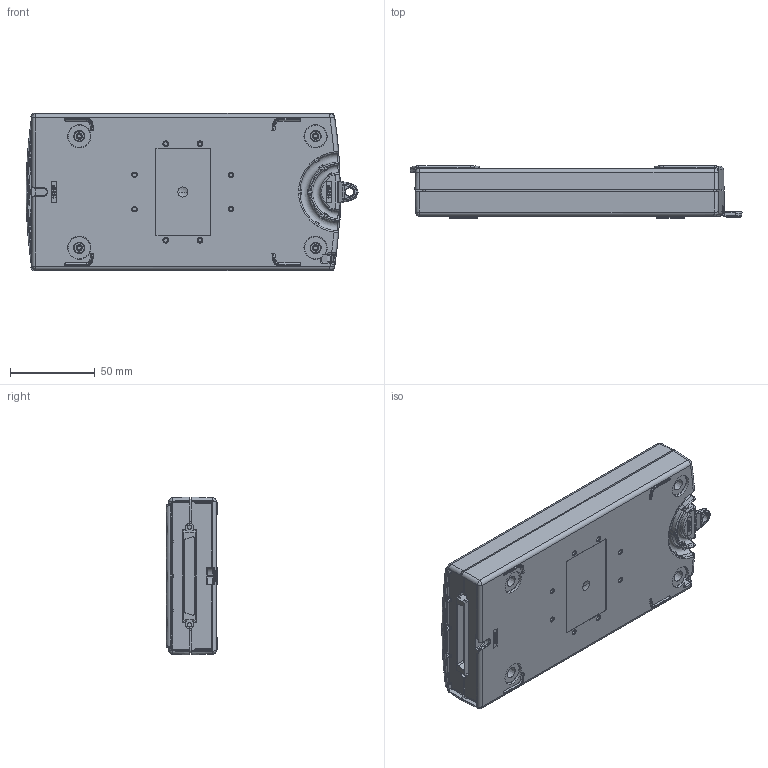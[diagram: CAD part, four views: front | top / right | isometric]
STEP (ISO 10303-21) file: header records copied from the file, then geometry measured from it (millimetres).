
FILE_DESCRIPTION((''),'2;1');
FILE_NAME('CU_USB-6212_6216_MASS_TERM_ASM','2015-09-01T',('dkendric'),(''),'PRO/ENGINEER BY PARAMETRIC TECHNOLOGY CORPORATION, 2014000','PRO/ENGINEER BY PARAMETRIC TECHNOLOGY CORPORATION, 2014000','');
FILE_SCHEMA(('CONFIG_CONTROL_DESIGN'));
Products named in the file (7): MANIFOLD_SOLID_BREP_61289; MANIFOLD_SOLID_BREP_62349; MANIFOLD_SOLID_BREP_62765; MANIFOLD_SOLID_BREP_65497; MANIFOLD_SOLID_BREP_112863; CU_USB-6212_6216_MASS_TERM_1_ASM; CU_USB-6212_6216_MASS_TERM_ASM
Assembly tree (6 placements, depth 3):
  CU_USB-6212_6216_MASS_TERM_ASM
    CU_USB-6212_6216_MASS_TERM_1_ASM
      MANIFOLD_SOLID_BREP_61289
      MANIFOLD_SOLID_BREP_62349
      MANIFOLD_SOLID_BREP_62765
      MANIFOLD_SOLID_BREP_65497
      MANIFOLD_SOLID_BREP_112863
Bounding box: 196.34 x 30.66 x 93.44 mm (x, y, z)
Volume: 116140.3 mm3; surface area: 107485.4 mm2
Topology: 5 solids, 5 shells, 3051 faces, 8449 edges, 5562 vertices
Faces by surface type: plane 900, torus 858, cylinder 453, cone 442, bspline 336, sphere 62
Entity records: 114810 total; most frequent: CARTESIAN_POINT 36533, DIRECTION 16902, ORIENTED_EDGE 16808, EDGE_CURVE 8404, AXIS2_PLACEMENT_3D 7220, VERTEX_POINT 5562, CIRCLE 4487, EDGE_LOOP 3290
